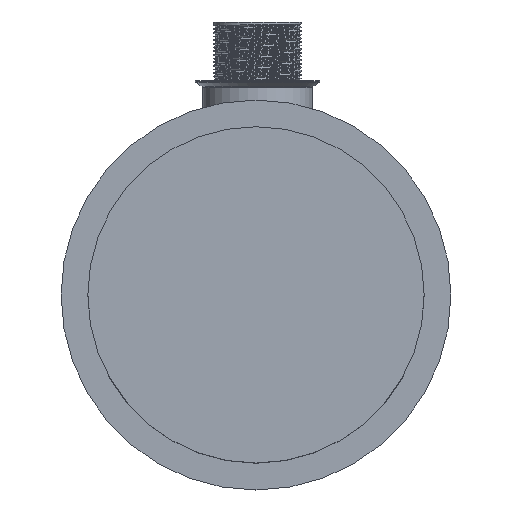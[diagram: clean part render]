
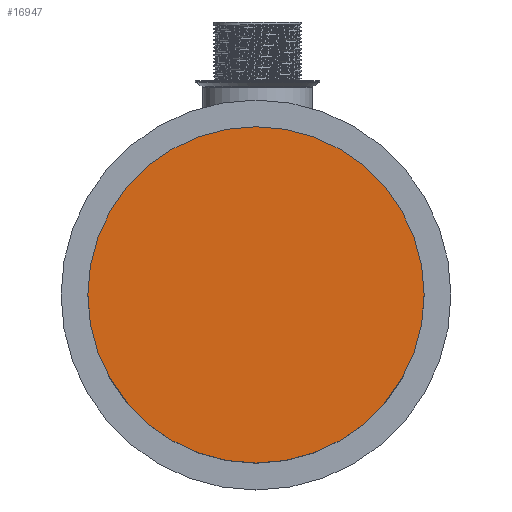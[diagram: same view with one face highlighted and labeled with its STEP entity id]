
A CAD part, top view. The second image highlights one B-rep face of the part: STEP entity #16947.
In plain terms, the highlighted planar face has unit normal (0, 0, 1).
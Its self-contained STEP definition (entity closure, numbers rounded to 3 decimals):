
#22 = DIRECTION ( 'NONE',  ( 0., 0., 1. ) ) ;
#115 = CARTESIAN_POINT ( 'NONE',  ( 0., 0., 32. ) ) ;
#1408 = EDGE_CURVE ( 'NONE', #8516, #8516, #12559, .T. ) ;
#2594 = EDGE_LOOP ( 'NONE', ( #3193 ) ) ;
#3193 = ORIENTED_EDGE ( 'NONE', *, *, #1408, .T. ) ;
#5575 = FACE_OUTER_BOUND ( 'NONE', #2594, .T. ) ;
#7012 = AXIS2_PLACEMENT_3D ( 'NONE', #9100, #11750, #17513 ) ;
#7403 = PLANE ( 'NONE',  #8850 ) ;
#8516 = VERTEX_POINT ( 'NONE', #11158 ) ;
#8850 = AXIS2_PLACEMENT_3D ( 'NONE', #115, #22, #12625 ) ;
#9100 = CARTESIAN_POINT ( 'NONE',  ( 10.136, 45.553, 32. ) ) ;
#11158 = CARTESIAN_POINT ( 'NONE',  ( 79.136, 45.553, 32. ) ) ;
#11750 = DIRECTION ( 'NONE',  ( 0., 0., 1. ) ) ;
#12559 = CIRCLE ( 'NONE', #7012, 69. ) ;
#12625 = DIRECTION ( 'NONE',  ( 1., 0., 0. ) ) ;
#16947 = ADVANCED_FACE ( 'NONE', ( #5575 ), #7403, .T. ) ;
#17513 = DIRECTION ( 'NONE',  ( 1., 0., 0. ) ) ;
